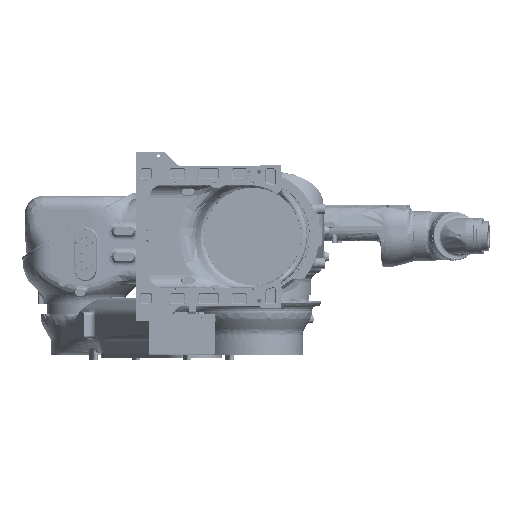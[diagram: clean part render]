
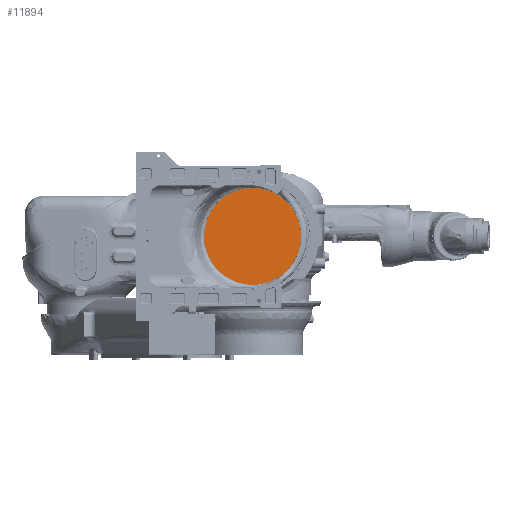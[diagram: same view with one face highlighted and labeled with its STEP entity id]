
A CAD part, front view. The second image highlights one B-rep face of the part: STEP entity #11894.
In plain terms, the highlighted planar face has unit normal (0, -1, 0).
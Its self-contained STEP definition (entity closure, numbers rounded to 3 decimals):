
#7083=FACE_OUTER_BOUND('',#19034,.T.);
#11894=ADVANCED_FACE('',(#7083),#16085,.T.);
#16085=PLANE('',#79095);
#19034=EDGE_LOOP('',(#28617,#28618));
#28617=ORIENTED_EDGE('',*,*,#58265,.F.);
#28618=ORIENTED_EDGE('',*,*,#58266,.F.);
#49596=VERTEX_POINT('',#167599);
#49597=VERTEX_POINT('',#167601);
#58265=EDGE_CURVE('',#49597,#49596,#70354,.T.);
#58266=EDGE_CURVE('',#49596,#49597,#70356,.T.);
#70354=B_SPLINE_CURVE_WITH_KNOTS('',3,(#167602,#167603,#167604,#167605,#167606,
#167607,#167608,#167609,#167610,#167611,#167612,#167613,#167614,#167615,
#167616,#167617,#167618,#167619,#167620,#167621,#167622,#167623,#167624,
#167625,#167626,#167627,#167628,#167629,#167630,#167631,#167632,#167633,
#167634,#167635,#167636,#167637,#167638,#167639,#167640,#167641,#167642,
#167643,#167644,#167645,#167646,#167647,#167648,#167649,#167650,#167651,
#167652,#167653,#167654,#167655,#167656),.UNSPECIFIED.,.F.,.F.,(4,1,1,1,
1,1,1,1,1,1,1,1,1,1,1,1,1,1,1,1,1,1,1,1,1,1,1,1,1,1,1,1,1,1,1,1,1,1,1,1,
1,1,1,1,1,1,1,1,1,1,1,1,4),(0.,0.019,0.038,0.057,
0.076,0.096,0.115,0.134,
0.153,0.173,0.192,0.211,
0.23,0.25,0.269,0.288,0.307,
0.327,0.346,0.365,0.384,0.404,
0.423,0.442,0.461,0.481,
0.5,0.519,0.539,0.558,0.577,
0.596,0.616,0.635,0.654,0.673,
0.693,0.712,0.731,0.75,
0.77,0.789,0.808,0.827,0.847,
0.866,0.885,0.904,0.924,0.943,
0.962,0.981,1.),.UNSPECIFIED.);
#70356=B_SPLINE_CURVE_WITH_KNOTS('',3,(#167712,#167713,#167714,#167715,#167716,
#167717,#167718,#167719,#167720,#167721,#167722,#167723,#167724,#167725,
#167726,#167727,#167728,#167729,#167730,#167731,#167732,#167733,#167734,
#167735,#167736,#167737,#167738,#167739,#167740,#167741,#167742,#167743,
#167744,#167745,#167746,#167747,#167748,#167749,#167750,#167751,#167752,
#167753,#167754,#167755,#167756,#167757,#167758,#167759,#167760,#167761,
#167762,#167763,#167764,#167765,#167766),.UNSPECIFIED.,.F.,.F.,(4,1,1,1,
1,1,1,1,1,1,1,1,1,1,1,1,1,1,1,1,1,1,1,1,1,1,1,1,1,1,1,1,1,1,1,1,1,1,1,1,
1,1,1,1,1,1,1,1,1,1,1,1,4),(0.,0.019,0.038,0.057,
0.076,0.096,0.115,0.134,
0.153,0.173,0.192,0.211,
0.23,0.25,0.269,0.288,0.307,
0.327,0.346,0.365,0.384,0.404,
0.423,0.442,0.461,0.481,
0.5,0.519,0.539,0.558,
0.577,0.596,0.616,0.635,
0.654,0.673,0.693,0.712,
0.731,0.75,0.77,0.789,0.808,
0.827,0.847,0.866,0.885,0.904,
0.924,0.943,0.962,0.981,
1.),.UNSPECIFIED.);
#79095=AXIS2_PLACEMENT_3D('',#167822,#81015,#81016);
#81015=DIRECTION('',(0.,-1.,0.));
#81016=DIRECTION('',(1.,0.,0.));
#167599=CARTESIAN_POINT('',(188.,256.,0.));
#167601=CARTESIAN_POINT('',(-188.,256.,0.));
#167602=CARTESIAN_POINT('',(-188.,256.,0.));
#167603=CARTESIAN_POINT('',(-188.,256.,3.646));
#167604=CARTESIAN_POINT('',(-187.784,256.,11.083));
#167605=CARTESIAN_POINT('',(-186.791,256.,22.274));
#167606=CARTESIAN_POINT('',(-185.103,256.,33.528));
#167607=CARTESIAN_POINT('',(-182.737,256.,44.659));
#167608=CARTESIAN_POINT('',(-179.702,256.,55.627));
#167609=CARTESIAN_POINT('',(-176.009,256.,66.391));
#167610=CARTESIAN_POINT('',(-171.673,256.,76.913));
#167611=CARTESIAN_POINT('',(-166.708,256.,87.153));
#167612=CARTESIAN_POINT('',(-161.133,256.,97.074));
#167613=CARTESIAN_POINT('',(-154.968,256.,106.64));
#167614=CARTESIAN_POINT('',(-148.236,256.,115.815));
#167615=CARTESIAN_POINT('',(-140.962,256.,124.567));
#167616=CARTESIAN_POINT('',(-133.172,256.,132.862));
#167617=CARTESIAN_POINT('',(-124.894,256.,140.672));
#167618=CARTESIAN_POINT('',(-116.16,256.,147.967));
#167619=CARTESIAN_POINT('',(-107.,256.,154.72));
#167620=CARTESIAN_POINT('',(-97.449,256.,160.907));
#167621=CARTESIAN_POINT('',(-87.541,256.,166.505));
#167622=CARTESIAN_POINT('',(-77.312,256.,171.493));
#167623=CARTESIAN_POINT('',(-66.801,256.,175.854));
#167624=CARTESIAN_POINT('',(-56.045,256.,179.572));
#167625=CARTESIAN_POINT('',(-45.084,256.,182.632));
#167626=CARTESIAN_POINT('',(-33.958,256.,185.024));
#167627=CARTESIAN_POINT('',(-22.708,256.,186.739));
#167628=CARTESIAN_POINT('',(-11.375,256.,187.771));
#167629=CARTESIAN_POINT('',(0.,256.,188.115));
#167630=CARTESIAN_POINT('',(11.375,256.,187.771));
#167631=CARTESIAN_POINT('',(22.708,256.,186.739));
#167632=CARTESIAN_POINT('',(33.958,256.,185.024));
#167633=CARTESIAN_POINT('',(45.084,256.,182.632));
#167634=CARTESIAN_POINT('',(56.045,256.,179.572));
#167635=CARTESIAN_POINT('',(66.801,256.,175.854));
#167636=CARTESIAN_POINT('',(77.312,256.,171.493));
#167637=CARTESIAN_POINT('',(87.541,256.,166.505));
#167638=CARTESIAN_POINT('',(97.449,256.,160.907));
#167639=CARTESIAN_POINT('',(107.,256.,154.72));
#167640=CARTESIAN_POINT('',(116.16,256.,147.967));
#167641=CARTESIAN_POINT('',(124.894,256.,140.672));
#167642=CARTESIAN_POINT('',(133.172,256.,132.862));
#167643=CARTESIAN_POINT('',(140.962,256.,124.567));
#167644=CARTESIAN_POINT('',(148.236,256.,115.815));
#167645=CARTESIAN_POINT('',(154.968,256.,106.64));
#167646=CARTESIAN_POINT('',(161.133,256.,97.074));
#167647=CARTESIAN_POINT('',(166.708,256.,87.153));
#167648=CARTESIAN_POINT('',(171.673,256.,76.913));
#167649=CARTESIAN_POINT('',(176.009,256.,66.391));
#167650=CARTESIAN_POINT('',(179.702,256.,55.627));
#167651=CARTESIAN_POINT('',(182.737,256.,44.659));
#167652=CARTESIAN_POINT('',(185.103,256.,33.528));
#167653=CARTESIAN_POINT('',(186.791,256.,22.274));
#167654=CARTESIAN_POINT('',(187.784,256.,11.083));
#167655=CARTESIAN_POINT('',(188.,256.,3.646));
#167656=CARTESIAN_POINT('',(188.,256.,0.));
#167712=CARTESIAN_POINT('',(188.,256.,0.));
#167713=CARTESIAN_POINT('',(188.,256.,-3.646));
#167714=CARTESIAN_POINT('',(187.784,256.,-11.083));
#167715=CARTESIAN_POINT('',(186.791,256.,-22.274));
#167716=CARTESIAN_POINT('',(185.103,256.,-33.528));
#167717=CARTESIAN_POINT('',(182.737,256.,-44.659));
#167718=CARTESIAN_POINT('',(179.702,256.,-55.627));
#167719=CARTESIAN_POINT('',(176.009,256.,-66.391));
#167720=CARTESIAN_POINT('',(171.673,256.,-76.913));
#167721=CARTESIAN_POINT('',(166.708,256.,-87.153));
#167722=CARTESIAN_POINT('',(161.133,256.,-97.074));
#167723=CARTESIAN_POINT('',(154.968,256.,-106.64));
#167724=CARTESIAN_POINT('',(148.236,256.,-115.815));
#167725=CARTESIAN_POINT('',(140.962,256.,-124.567));
#167726=CARTESIAN_POINT('',(133.172,256.,-132.862));
#167727=CARTESIAN_POINT('',(124.894,256.,-140.672));
#167728=CARTESIAN_POINT('',(116.16,256.,-147.967));
#167729=CARTESIAN_POINT('',(107.,256.,-154.72));
#167730=CARTESIAN_POINT('',(97.449,256.,-160.907));
#167731=CARTESIAN_POINT('',(87.541,256.,-166.505));
#167732=CARTESIAN_POINT('',(77.312,256.,-171.493));
#167733=CARTESIAN_POINT('',(66.801,256.,-175.854));
#167734=CARTESIAN_POINT('',(56.045,256.,-179.572));
#167735=CARTESIAN_POINT('',(45.084,256.,-182.632));
#167736=CARTESIAN_POINT('',(33.958,256.,-185.024));
#167737=CARTESIAN_POINT('',(22.708,256.,-186.739));
#167738=CARTESIAN_POINT('',(11.375,256.,-187.771));
#167739=CARTESIAN_POINT('',(0.,256.,-188.115));
#167740=CARTESIAN_POINT('',(-11.375,256.,-187.771));
#167741=CARTESIAN_POINT('',(-22.708,256.,-186.739));
#167742=CARTESIAN_POINT('',(-33.958,256.,-185.024));
#167743=CARTESIAN_POINT('',(-45.084,256.,-182.632));
#167744=CARTESIAN_POINT('',(-56.045,256.,-179.572));
#167745=CARTESIAN_POINT('',(-66.801,256.,-175.854));
#167746=CARTESIAN_POINT('',(-77.312,256.,-171.493));
#167747=CARTESIAN_POINT('',(-87.541,256.,-166.505));
#167748=CARTESIAN_POINT('',(-97.449,256.,-160.907));
#167749=CARTESIAN_POINT('',(-107.,256.,-154.72));
#167750=CARTESIAN_POINT('',(-116.16,256.,-147.967));
#167751=CARTESIAN_POINT('',(-124.894,256.,-140.672));
#167752=CARTESIAN_POINT('',(-133.172,256.,-132.862));
#167753=CARTESIAN_POINT('',(-140.962,256.,-124.567));
#167754=CARTESIAN_POINT('',(-148.236,256.,-115.815));
#167755=CARTESIAN_POINT('',(-154.968,256.,-106.64));
#167756=CARTESIAN_POINT('',(-161.133,256.,-97.074));
#167757=CARTESIAN_POINT('',(-166.708,256.,-87.153));
#167758=CARTESIAN_POINT('',(-171.673,256.,-76.913));
#167759=CARTESIAN_POINT('',(-176.009,256.,-66.391));
#167760=CARTESIAN_POINT('',(-179.702,256.,-55.627));
#167761=CARTESIAN_POINT('',(-182.737,256.,-44.659));
#167762=CARTESIAN_POINT('',(-185.103,256.,-33.528));
#167763=CARTESIAN_POINT('',(-186.791,256.,-22.274));
#167764=CARTESIAN_POINT('',(-187.784,256.,-11.083));
#167765=CARTESIAN_POINT('',(-188.,256.,-3.646));
#167766=CARTESIAN_POINT('',(-188.,256.,0.));
#167822=CARTESIAN_POINT('',(0.,256.,188.));
